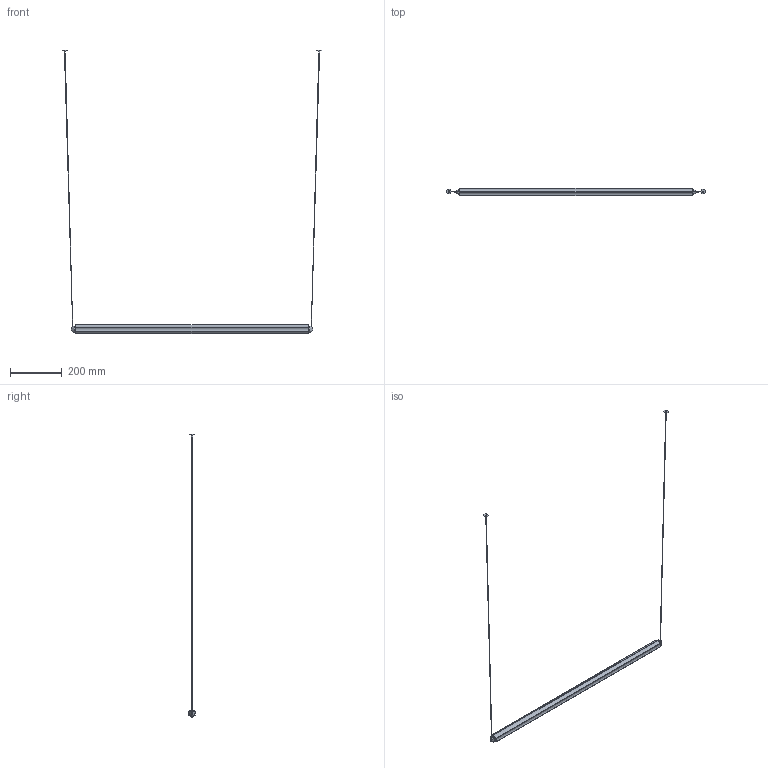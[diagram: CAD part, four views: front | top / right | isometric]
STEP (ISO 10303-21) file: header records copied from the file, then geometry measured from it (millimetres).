
FILE_DESCRIPTION(/* description */ (''),/* implementation_level */ '2;1');
FILE_NAME(/* name */ '64672-131_3d',/* time_stamp */ '2026-05-25T13:04:51+02:00',/* author */ (''),/* organization */ (''),/* preprocessor_version */ 'ST-DEVELOPER v19.2',/* originating_system */ 'Rhino 8.30',/* authorisation */ '');
FILE_SCHEMA (('CONFIG_CONTROL_DESIGN'));
Length unit declared in the file: millimetre
Products named in the file (1): Document
Bounding box: 1003.38 x 29.26 x 1095.46 mm (x, y, z)
Volume: 336395.3 mm3; surface area: 169299.4 mm2
Topology: 5 solids, 9 shells, 103 faces, 295 edges, 188 vertices
Faces by surface type: cylinder 57, plane 38, bspline 8
Entity records: 8432 total; most frequent: CARTESIAN_POINT 5961, ORIENTED_EDGE 562, DIRECTION 321, EDGE_CURVE 287, AXIS2_PLACEMENT_3D 207, VERTEX_POINT 186, B_SPLINE_CURVE_WITH_KNOTS 163, EDGE_LOOP 111
